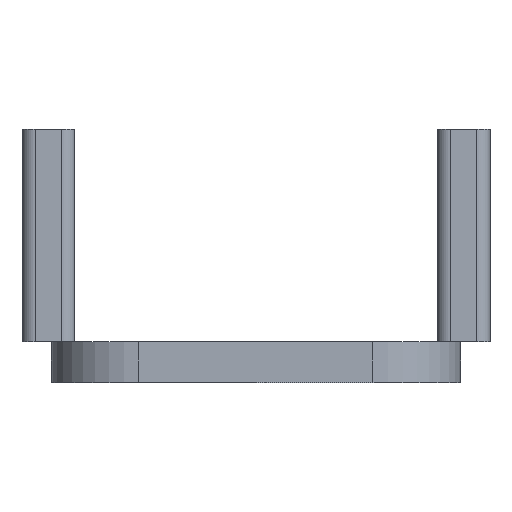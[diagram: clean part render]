
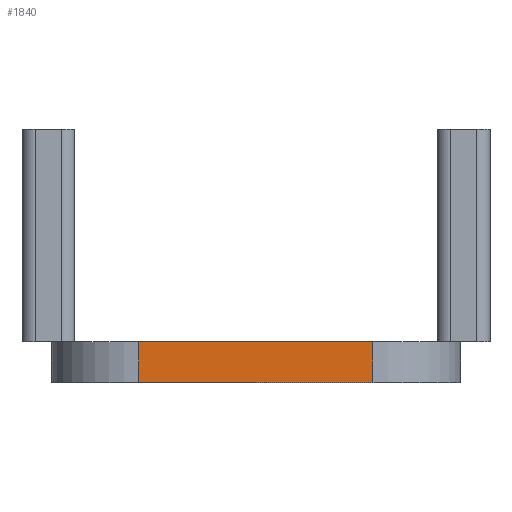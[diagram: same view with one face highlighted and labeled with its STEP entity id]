
A CAD part, left-side view. The second image highlights one B-rep face of the part: STEP entity #1840.
In plain terms, the highlighted planar face has unit normal (-1, 0, 0).
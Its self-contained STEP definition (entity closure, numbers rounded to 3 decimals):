
#43 = PLANE('',#44);
#44 = AXIS2_PLACEMENT_3D('',#45,#46,#47);
#45 = CARTESIAN_POINT('',(0.,-47.,-10.9));
#46 = DIRECTION('',(0.,0.,-1.));
#47 = DIRECTION('',(-1.,0.,0.));
#282 = VERTEX_POINT('',#283);
#283 = CARTESIAN_POINT('',(-20.,-43.,-10.9));
#298 = CYLINDRICAL_SURFACE('',#299,3.);
#299 = AXIS2_PLACEMENT_3D('',#300,#301,#302);
#300 = CARTESIAN_POINT('',(-17.,-43.,-10.9));
#301 = DIRECTION('',(0.,0.,-1.));
#302 = DIRECTION('',(-1.,0.,0.));
#310 = EDGE_CURVE('',#311,#282,#313,.T.);
#311 = VERTEX_POINT('',#312);
#312 = CARTESIAN_POINT('',(-20.,-51.,-10.9));
#313 = SURFACE_CURVE('',#314,(#318,#325),.PCURVE_S1.);
#314 = LINE('',#315,#316);
#315 = CARTESIAN_POINT('',(-20.,-51.,-10.9));
#316 = VECTOR('',#317,1.);
#317 = DIRECTION('',(0.,1.,0.));
#318 = PCURVE('',#43,#319);
#319 = DEFINITIONAL_REPRESENTATION('',(#320),#324);
#320 = LINE('',#321,#322);
#321 = CARTESIAN_POINT('',(20.,-4.));
#322 = VECTOR('',#323,1.);
#323 = DIRECTION('',(0.,1.));
#324 = ( GEOMETRIC_REPRESENTATION_CONTEXT(2) 
PARAMETRIC_REPRESENTATION_CONTEXT() REPRESENTATION_CONTEXT('2D SPACE',''
  ) );
#325 = PCURVE('',#326,#331);
#326 = PLANE('',#327);
#327 = AXIS2_PLACEMENT_3D('',#328,#329,#330);
#328 = CARTESIAN_POINT('',(-20.,-51.,-10.9));
#329 = DIRECTION('',(-1.,0.,0.));
#330 = DIRECTION('',(0.,1.,0.));
#331 = DEFINITIONAL_REPRESENTATION('',(#332),#336);
#332 = LINE('',#333,#334);
#333 = CARTESIAN_POINT('',(0.,0.));
#334 = VECTOR('',#335,1.);
#335 = DIRECTION('',(1.,0.));
#336 = ( GEOMETRIC_REPRESENTATION_CONTEXT(2) 
PARAMETRIC_REPRESENTATION_CONTEXT() REPRESENTATION_CONTEXT('2D SPACE',''
  ) );
#355 = CYLINDRICAL_SURFACE('',#356,3.);
#356 = AXIS2_PLACEMENT_3D('',#357,#358,#359);
#357 = CARTESIAN_POINT('',(-17.,-51.,-10.9));
#358 = DIRECTION('',(0.,0.,-1.));
#359 = DIRECTION('',(0.,-1.,0.));
#1319 = PLANE('',#1320);
#1320 = AXIS2_PLACEMENT_3D('',#1321,#1322,#1323);
#1321 = CARTESIAN_POINT('',(0.,-47.,-12.3));
#1322 = DIRECTION('',(0.,0.,-1.));
#1323 = DIRECTION('',(-1.,0.,0.));
#1797 = VERTEX_POINT('',#1798);
#1798 = CARTESIAN_POINT('',(-20.,-43.,-12.3));
#1820 = EDGE_CURVE('',#282,#1797,#1821,.T.);
#1821 = SURFACE_CURVE('',#1822,(#1826,#1833),.PCURVE_S1.);
#1822 = LINE('',#1823,#1824);
#1823 = CARTESIAN_POINT('',(-20.,-43.,-10.9));
#1824 = VECTOR('',#1825,1.);
#1825 = DIRECTION('',(0.,0.,-1.));
#1826 = PCURVE('',#298,#1827);
#1827 = DEFINITIONAL_REPRESENTATION('',(#1828),#1832);
#1828 = LINE('',#1829,#1830);
#1829 = CARTESIAN_POINT('',(0.,0.));
#1830 = VECTOR('',#1831,1.);
#1831 = DIRECTION('',(0.,1.));
#1832 = ( GEOMETRIC_REPRESENTATION_CONTEXT(2) 
PARAMETRIC_REPRESENTATION_CONTEXT() REPRESENTATION_CONTEXT('2D SPACE',''
  ) );
#1833 = PCURVE('',#326,#1834);
#1834 = DEFINITIONAL_REPRESENTATION('',(#1835),#1839);
#1835 = LINE('',#1836,#1837);
#1836 = CARTESIAN_POINT('',(8.,0.));
#1837 = VECTOR('',#1838,1.);
#1838 = DIRECTION('',(0.,1.));
#1839 = ( GEOMETRIC_REPRESENTATION_CONTEXT(2) 
PARAMETRIC_REPRESENTATION_CONTEXT() REPRESENTATION_CONTEXT('2D SPACE',''
  ) );
#1840 = ADVANCED_FACE('',(#1841),#326,.T.);
#1841 = FACE_BOUND('',#1842,.T.);
#1842 = EDGE_LOOP('',(#1843,#1844,#1845,#1868));
#1843 = ORIENTED_EDGE('',*,*,#310,.T.);
#1844 = ORIENTED_EDGE('',*,*,#1820,.T.);
#1845 = ORIENTED_EDGE('',*,*,#1846,.F.);
#1846 = EDGE_CURVE('',#1847,#1797,#1849,.T.);
#1847 = VERTEX_POINT('',#1848);
#1848 = CARTESIAN_POINT('',(-20.,-51.,-12.3));
#1849 = SURFACE_CURVE('',#1850,(#1854,#1861),.PCURVE_S1.);
#1850 = LINE('',#1851,#1852);
#1851 = CARTESIAN_POINT('',(-20.,-51.,-12.3));
#1852 = VECTOR('',#1853,1.);
#1853 = DIRECTION('',(0.,1.,0.));
#1854 = PCURVE('',#326,#1855);
#1855 = DEFINITIONAL_REPRESENTATION('',(#1856),#1860);
#1856 = LINE('',#1857,#1858);
#1857 = CARTESIAN_POINT('',(0.,1.4));
#1858 = VECTOR('',#1859,1.);
#1859 = DIRECTION('',(1.,0.));
#1860 = ( GEOMETRIC_REPRESENTATION_CONTEXT(2) 
PARAMETRIC_REPRESENTATION_CONTEXT() REPRESENTATION_CONTEXT('2D SPACE',''
  ) );
#1861 = PCURVE('',#1319,#1862);
#1862 = DEFINITIONAL_REPRESENTATION('',(#1863),#1867);
#1863 = LINE('',#1864,#1865);
#1864 = CARTESIAN_POINT('',(20.,-4.));
#1865 = VECTOR('',#1866,1.);
#1866 = DIRECTION('',(0.,1.));
#1867 = ( GEOMETRIC_REPRESENTATION_CONTEXT(2) 
PARAMETRIC_REPRESENTATION_CONTEXT() REPRESENTATION_CONTEXT('2D SPACE',''
  ) );
#1868 = ORIENTED_EDGE('',*,*,#1869,.F.);
#1869 = EDGE_CURVE('',#311,#1847,#1870,.T.);
#1870 = SURFACE_CURVE('',#1871,(#1875,#1882),.PCURVE_S1.);
#1871 = LINE('',#1872,#1873);
#1872 = CARTESIAN_POINT('',(-20.,-51.,-10.9));
#1873 = VECTOR('',#1874,1.);
#1874 = DIRECTION('',(0.,0.,-1.));
#1875 = PCURVE('',#326,#1876);
#1876 = DEFINITIONAL_REPRESENTATION('',(#1877),#1881);
#1877 = LINE('',#1878,#1879);
#1878 = CARTESIAN_POINT('',(0.,0.));
#1879 = VECTOR('',#1880,1.);
#1880 = DIRECTION('',(0.,1.));
#1881 = ( GEOMETRIC_REPRESENTATION_CONTEXT(2) 
PARAMETRIC_REPRESENTATION_CONTEXT() REPRESENTATION_CONTEXT('2D SPACE',''
  ) );
#1882 = PCURVE('',#355,#1883);
#1883 = DEFINITIONAL_REPRESENTATION('',(#1884),#1888);
#1884 = LINE('',#1885,#1886);
#1885 = CARTESIAN_POINT('',(1.571,0.));
#1886 = VECTOR('',#1887,1.);
#1887 = DIRECTION('',(0.,1.));
#1888 = ( GEOMETRIC_REPRESENTATION_CONTEXT(2) 
PARAMETRIC_REPRESENTATION_CONTEXT() REPRESENTATION_CONTEXT('2D SPACE',''
  ) );
